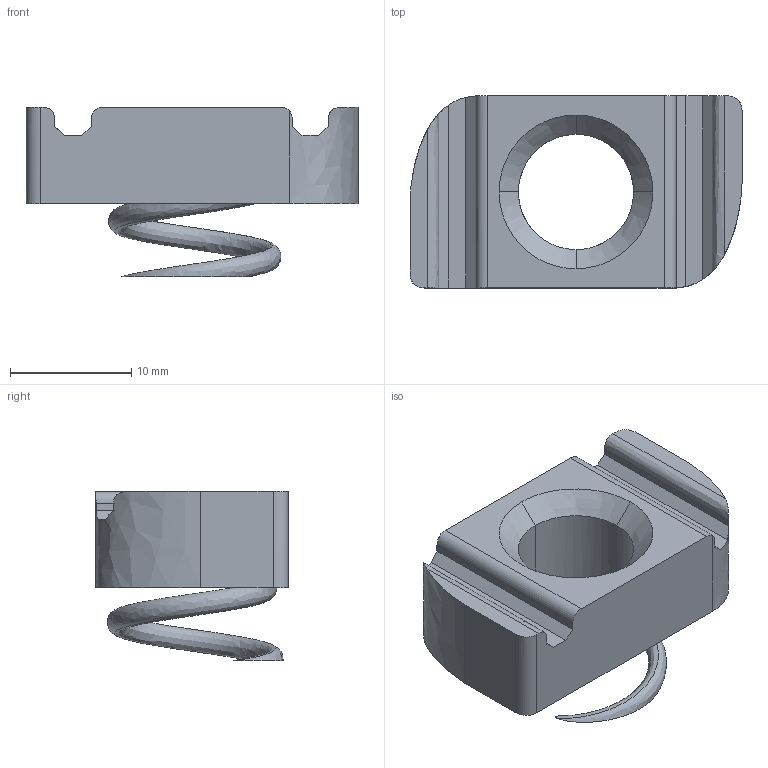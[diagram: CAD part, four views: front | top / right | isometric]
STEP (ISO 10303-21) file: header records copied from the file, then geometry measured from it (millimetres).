
FILE_DESCRIPTION(('TurboCAD Mac Pro'),'Build 980');
FILE_NAME('A4008.stp',' ',(''),(''),'ACIS Interop','IMSI','TurboCAD Mac Pro BY IMSI, INCORPORATED');
FILE_SCHEMA(('automotive_design'));
Length unit declared in the file: inch
Products named in the file (1): 1
Bounding box: 27.43 x 15.87 x 13.97 mm (x, y, z)
Volume: 2561 mm3; surface area: 1806.4 mm2
Topology: 1 solids, 1 shells, 37 faces, 98 edges, 64 vertices
Faces by surface type: plane 19, bspline 18
Entity records: 2543 total; most frequent: CARTESIAN_POINT 1453, ORIENTED_EDGE 196, EDGE_CURVE 98, DIRECTION 88, VERTEX_POINT 64, B_SPLINE_CURVE_WITH_KNOTS 50, LINE 48, VECTOR 48
